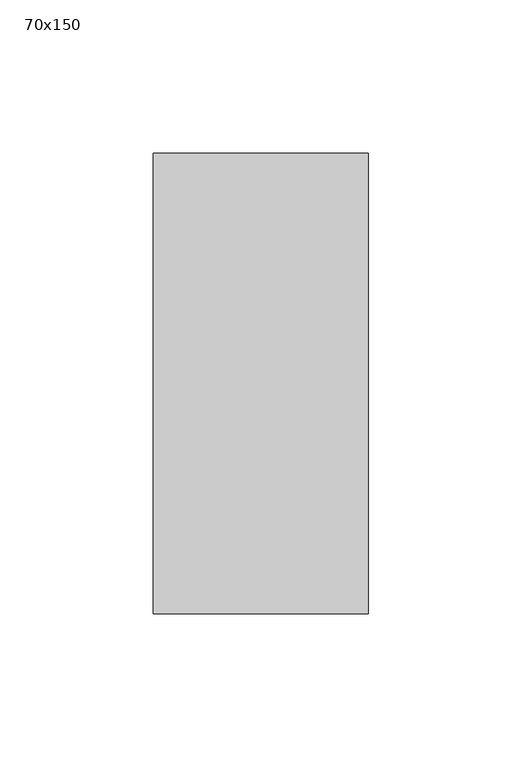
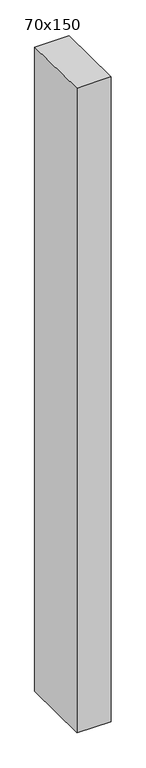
"""IFC4 building model written with IfcOpenShell, lengths in millimetres: member geometry, 長方形のマリオン : 70x150."""

from ifc_helpers import new_model, si_unit, frame, origin, place, context, project, spatial, polyline, outline, extrude, source, transform, mapped, element, save


def member_70x150_db9f7753(model_context):
    return source(origin(), model_context, "Body", "SweptSolid", [
        extrude(outline(polyline([(-75.0, 0.977983), (75.0, -0.977983), (75.0, -1397.7180115), (-75.0, -1397.3194831), (-75.0, 0.977983)])), frame((-70.0, 0.0, 0.0), z_axis=(1.0, 0.0, 0.0), x_axis=(0.0, 1.0, 0.0)), (0.0, 0.0, 1.0), 70.0),
    ])


if __name__ == "__main__":
    model = new_model("IFC4")
    model_context = context("Model", 3, world=origin())
    ifc_project = project(units=[si_unit("LENGTHUNIT", "METRE", prefix="MILLI")], contexts=[model_context])
    site = spatial("IfcSite", under=ifc_project)
    building = spatial("IfcBuilding", under=site)
    placement = place(None, origin())
    member_70x150_shape = member_70x150_db9f7753(model_context)
    element("IfcMember", 1, ObjectType="長方形のマリオン : 70x150", at=placement, inside=building, context=model_context, shape_type="MappedRepresentation", body=[
        mapped(member_70x150_shape, transform((0.0, 0.0, 0.0), x_axis=(1.0, 0.0, 0.0), y_axis=(0.0, 1.0, 0.0), z_axis=(0.0, 0.0, 1.0))),
    ])
    save(model, "model.ifc")
